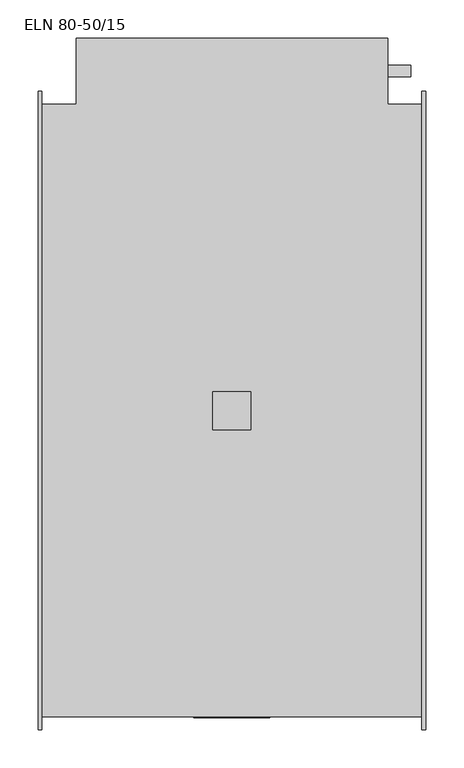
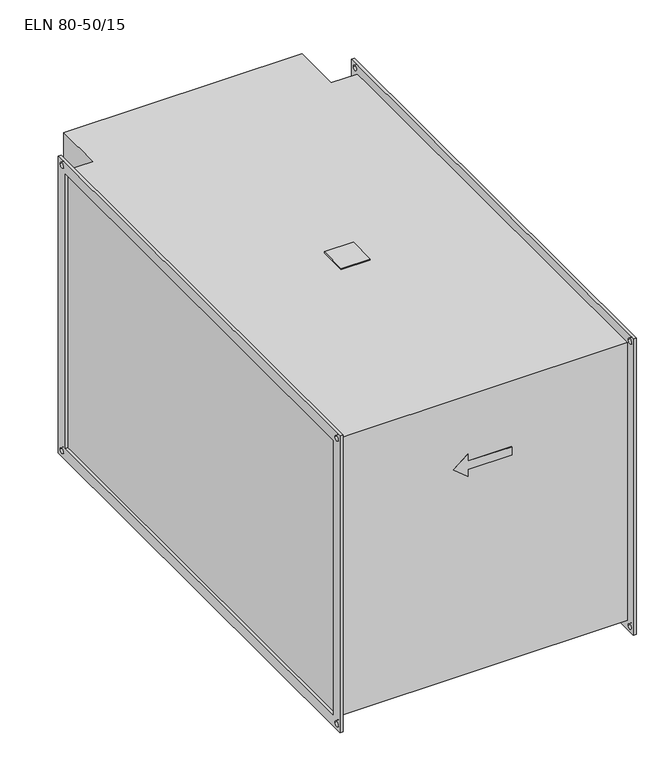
"""IFC4 building model written with IfcOpenShell, lengths in millimetres: proxy geometry, KORF_Нагреватель_Электрический_ELN : ELN 80-50/15."""

from ifc_helpers import new_model, si_unit, point, frame, frame_2d, origin, place, context, project, spatial, polyline, circle_curve, trimmed, segment, composite_curve, outline, extrude, source, transform, mapped, element, save


def eln_80_50_15_f0a65cec(model_context):
    return source(origin(), model_context, "Body", "SweptSolid", [
        extrude(outline(polyline([(230.0, -25.0), (230.0, 25.0), (280.0, 25.0), (280.0, -25.0), (230.0, -25.0)])), frame((0.0, 0.0, 253.0), z_axis=(0.0, 0.0, 1.0), x_axis=(1.0, 0.0, 0.0)), (0.0, 0.0, 1.0), 2.0),
        extrude(outline(composite_curve([segment(trimmed(circle_curve(frame_2d((446.5, -126.5)), 7.5), [point((439.0, -126.5))], [point((454.0, -126.5))], False, "CARTESIAN"), True, "CONTINUOUS"), segment(trimmed(circle_curve(frame_2d((446.5, -126.5)), 7.5), [point((454.0, -126.5))], [point((439.0, -126.5))], False, "CARTESIAN"), True, "CONTINUOUS")], self_intersect=False)), frame((460.0, 0.0, 0.0), z_axis=(1.0, 0.0, 0.0), x_axis=(0.0, 1.0, 0.0)), (0.0, 0.0, 1.0), 30.0),
        extrude(outline(composite_curve([segment(trimmed(circle_curve(frame_2d((446.5, -106.5)), 7.5), [point((439.0, -106.5))], [point((454.0, -106.5))], False, "CARTESIAN"), True, "CONTINUOUS"), segment(trimmed(circle_curve(frame_2d((446.5, -106.5)), 7.5), [point((454.0, -106.5))], [point((439.0, -106.5))], False, "CARTESIAN"), True, "CONTINUOUS")], self_intersect=False)), frame((460.0, 0.0, 0.0), z_axis=(1.0, 0.0, 0.0), x_axis=(0.0, 1.0, 0.0)), (0.0, 0.0, 1.0), 30.0),
        extrude(outline(composite_curve([segment(trimmed(circle_curve(frame_2d((446.5, -146.5)), 7.5), [point((439.0, -146.5))], [point((454.0, -146.5))], False, "CARTESIAN"), True, "CONTINUOUS"), segment(trimmed(circle_curve(frame_2d((446.5, -146.5)), 7.5), [point((454.0, -146.5))], [point((439.0, -146.5))], False, "CARTESIAN"), True, "CONTINUOUS")], self_intersect=False)), frame((460.0, 0.0, 0.0), z_axis=(1.0, 0.0, 0.0), x_axis=(0.0, 1.0, 0.0)), (0.0, 0.0, 1.0), 30.0),
        extrude(outline(polyline([(146.5, 230.0), (126.5, 205.0), (106.5, 230.0), (119.0, 230.0), (119.0, 305.0), (134.0, 305.0), (134.0, 230.0), (146.5, 230.0)])), frame((0.0, -404.0, 0.0), z_axis=(0.0, 1.0, 0.0), x_axis=(0.0, 0.0, 1.0)), (0.0, 0.0, 1.0), 1.0),
        extrude(outline(polyline([(505.0, 403.0), (505.0, -403.0), (5.0, -403.0), (5.0, 403.0), (50.0, 403.0), (50.0, 490.0), (460.0, 490.0), (460.0, 403.0), (505.0, 403.0)])), frame((0.0, 0.0, -253.0), z_axis=(0.0, 0.0, 1.0), x_axis=(1.0, 0.0, 0.0)), (0.0, 0.0, 1.0), 506.0),
        extrude(outline(polyline([(-420.0, 270.0), (420.0, 270.0), (420.0, -270.0), (-420.0, -270.0), (-420.0, 270.0)]), holes=[polyline([(-400.0, 250.0), (-400.0, -250.0), (400.0, -250.0), (400.0, 250.0), (-400.0, 250.0)]), composite_curve([segment(trimmed(circle_curve(frame_2d((410.0, 260.0)), 4.5), [point((405.5, 260.0))], [point((414.5, 260.0))], True, "CARTESIAN"), True, "CONTINUOUS"), segment(trimmed(circle_curve(frame_2d((410.0, 260.0)), 4.5), [point((414.5, 260.0))], [point((405.5, 260.0))], True, "CARTESIAN"), True, "CONTINUOUS")], self_intersect=False), composite_curve([segment(trimmed(circle_curve(frame_2d((-410.0, 260.0)), 4.5), [point((-414.5, 260.0))], [point((-405.5, 260.0))], True, "CARTESIAN"), True, "CONTINUOUS"), segment(trimmed(circle_curve(frame_2d((-410.0, 260.0)), 4.5), [point((-405.5, 260.0))], [point((-414.5, 260.0))], True, "CARTESIAN"), True, "CONTINUOUS")], self_intersect=False), composite_curve([segment(trimmed(circle_curve(frame_2d((-410.0, -260.0)), 4.5), [point((-414.5, -260.0))], [point((-405.5, -260.0))], True, "CARTESIAN"), True, "CONTINUOUS"), segment(trimmed(circle_curve(frame_2d((-410.0, -260.0)), 4.5), [point((-405.5, -260.0))], [point((-414.5, -260.0))], True, "CARTESIAN"), True, "CONTINUOUS")], self_intersect=False), composite_curve([segment(trimmed(circle_curve(frame_2d((410.0, -260.0)), 4.5), [point((405.5, -260.0))], [point((414.5, -260.0))], True, "CARTESIAN"), True, "CONTINUOUS"), segment(trimmed(circle_curve(frame_2d((410.0, -260.0)), 4.5), [point((414.5, -260.0))], [point((405.5, -260.0))], True, "CARTESIAN"), True, "CONTINUOUS")], self_intersect=False)]), frame((505.0, 0.0, 0.0), z_axis=(1.0, 0.0, 0.0), x_axis=(0.0, 1.0, 0.0)), (0.0, 0.0, 1.0), 5.0),
        extrude(outline(polyline([(-420.0, 270.0), (420.0, 270.0), (420.0, -270.0), (-420.0, -270.0), (-420.0, 270.0)]), holes=[polyline([(-400.0, 250.0), (-400.0, -250.0), (400.0, -250.0), (400.0, 250.0), (-400.0, 250.0)]), composite_curve([segment(trimmed(circle_curve(frame_2d((410.0, 260.0)), 4.5), [point((405.5, 260.0))], [point((414.5, 260.0))], True, "CARTESIAN"), True, "CONTINUOUS"), segment(trimmed(circle_curve(frame_2d((410.0, 260.0)), 4.5), [point((414.5, 260.0))], [point((405.5, 260.0))], True, "CARTESIAN"), True, "CONTINUOUS")], self_intersect=False), composite_curve([segment(trimmed(circle_curve(frame_2d((-410.0, 260.0)), 4.5), [point((-414.5, 260.0))], [point((-405.5, 260.0))], True, "CARTESIAN"), True, "CONTINUOUS"), segment(trimmed(circle_curve(frame_2d((-410.0, 260.0)), 4.5), [point((-405.5, 260.0))], [point((-414.5, 260.0))], True, "CARTESIAN"), True, "CONTINUOUS")], self_intersect=False), composite_curve([segment(trimmed(circle_curve(frame_2d((-410.0, -260.0)), 4.5), [point((-414.5, -260.0))], [point((-405.5, -260.0))], True, "CARTESIAN"), True, "CONTINUOUS"), segment(trimmed(circle_curve(frame_2d((-410.0, -260.0)), 4.5), [point((-405.5, -260.0))], [point((-414.5, -260.0))], True, "CARTESIAN"), True, "CONTINUOUS")], self_intersect=False), composite_curve([segment(trimmed(circle_curve(frame_2d((410.0, -260.0)), 4.5), [point((405.5, -260.0))], [point((414.5, -260.0))], True, "CARTESIAN"), True, "CONTINUOUS"), segment(trimmed(circle_curve(frame_2d((410.0, -260.0)), 4.5), [point((414.5, -260.0))], [point((405.5, -260.0))], True, "CARTESIAN"), True, "CONTINUOUS")], self_intersect=False)]), frame((0.0, 0.0, 0.0), z_axis=(1.0, 0.0, 0.0), x_axis=(0.0, 1.0, 0.0)), (0.0, 0.0, 1.0), 5.0),
    ])


if __name__ == "__main__":
    model = new_model("IFC4")
    model_context = context("Model", 3, world=origin())
    ifc_project = project(units=[si_unit("LENGTHUNIT", "METRE", prefix="MILLI")], contexts=[model_context])
    site = spatial("IfcSite", under=ifc_project)
    building = spatial("IfcBuilding", under=site)
    placement = place(None, origin())
    eln_80_50_15_shape = eln_80_50_15_f0a65cec(model_context)
    element("IfcBuildingElementProxy", 1, Name="KORF_Нагреватель_Электрический_ELN : ELN 80-50/15", ObjectType="KORF_Нагреватель_Электрический_ELN : ELN 80-50/15", at=placement, inside=building, context=model_context, shape_type="MappedRepresentation", body=[
        mapped(eln_80_50_15_shape, transform((0.0, 0.0, 0.0), x_axis=(1.0, 0.0, 0.0), y_axis=(0.0, 1.0, 0.0), z_axis=(0.0, 0.0, 1.0))),
    ])
    save(model, "model.ifc")
